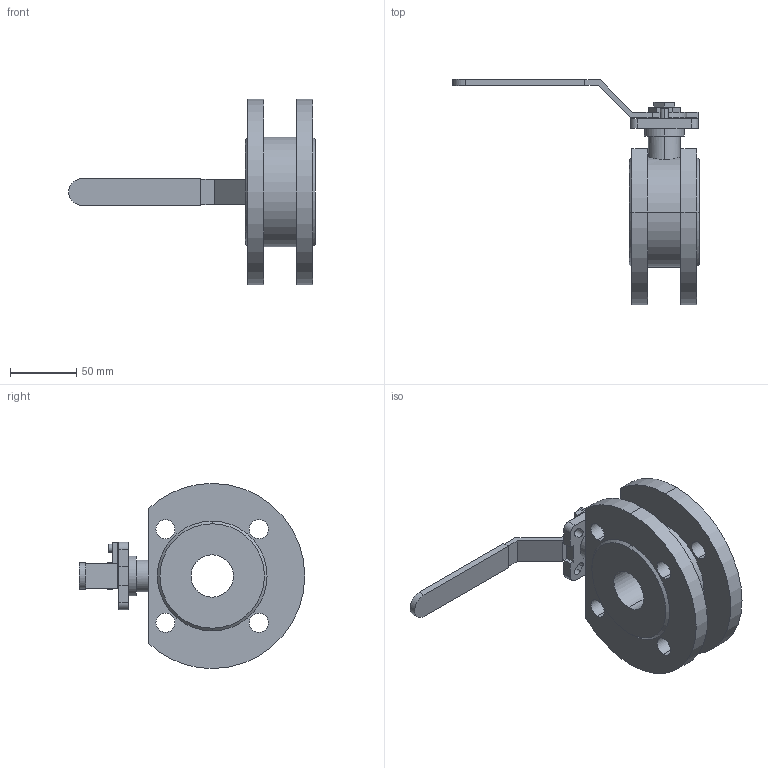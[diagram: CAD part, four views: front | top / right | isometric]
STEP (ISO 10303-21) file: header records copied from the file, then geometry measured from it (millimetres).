
FILE_DESCRIPTION (( 'STEP AP203' ), '1' );
FILE_NAME ('01.622I032X16CP.STEP', '2018-10-23T07:29:20', ( '' ), ( '' ), 'SwSTEP 2.0', 'SolidWorks 2014', '' );
FILE_SCHEMA (( 'CONFIG_CONTROL_DESIGN' ));
Length unit declared in the file: millimetre
Products named in the file (1): 01.622I032X16CP
Bounding box: 186.5 x 170.5 x 140 mm (x, y, z)
Volume: 476982.7 mm3; surface area: 85038.6 mm2
Topology: 1 solids, 1 shells, 123 faces, 325 edges, 216 vertices
Faces by surface type: plane 69, cylinder 50, cone 4
Entity records: 4044 total; most frequent: CARTESIAN_POINT 755, DIRECTION 677, ORIENTED_EDGE 650, EDGE_CURVE 325, AXIS2_PLACEMENT_3D 230, VECTOR 217, LINE 217, VERTEX_POINT 216
